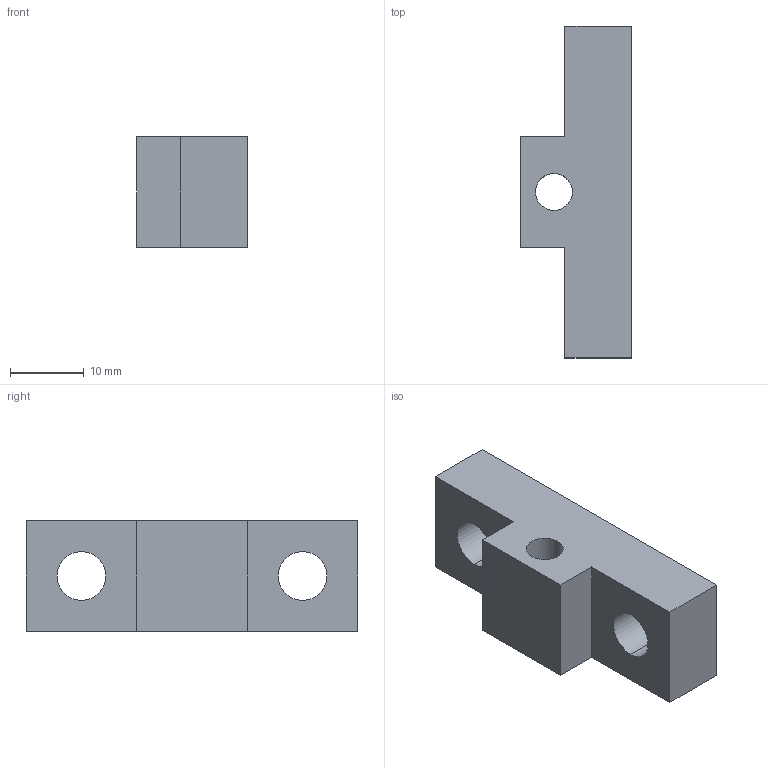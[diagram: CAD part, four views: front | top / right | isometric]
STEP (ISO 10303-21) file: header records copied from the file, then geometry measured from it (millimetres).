
FILE_DESCRIPTION (( 'STEP AP203' ), '1' );
FILE_NAME ('084.802.004-1.STEP', '2013-01-29T13:28:30', ( 'Alusic' ), ( 'Alusic' ), 'SwSTEP 2.0', 'SolidWorks 2011', '' );
FILE_SCHEMA (( 'CONFIG_CONTROL_DESIGN' ));
Length unit declared in the file: millimetre
Products named in the file (1): 084.802.004-1
Bounding box: 15 x 45 x 15 mm (x, y, z)
Volume: 6271.5 mm3; surface area: 3173.3 mm2
Topology: 1 solids, 1 shells, 20 faces, 50 edges, 32 vertices
Faces by surface type: plane 10, cylinder 6, cone 4
Entity records: 687 total; most frequent: DIRECTION 108, CARTESIAN_POINT 103, ORIENTED_EDGE 100, EDGE_CURVE 50, AXIS2_PLACEMENT_3D 37, VECTOR 34, LINE 34, VERTEX_POINT 32
